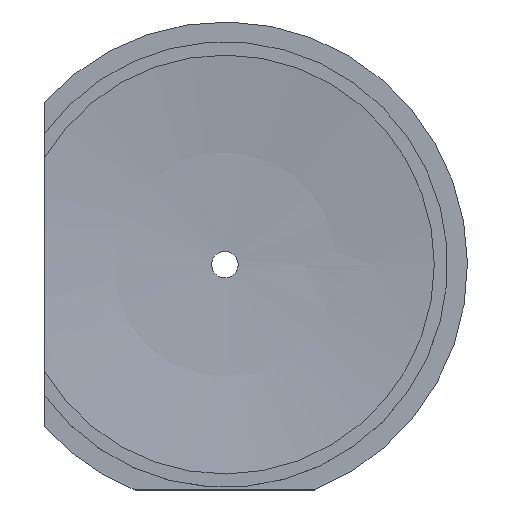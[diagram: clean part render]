
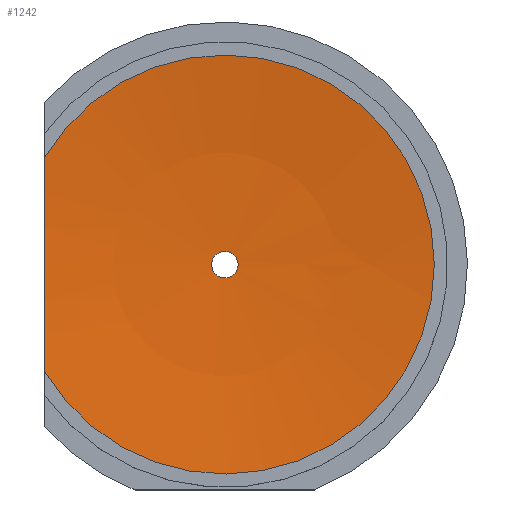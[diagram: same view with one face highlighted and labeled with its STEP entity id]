
A CAD part, top view. The second image highlights one B-rep face of the part: STEP entity #1242.
In plain terms, the highlighted spherical face has radius 125.3 mm.
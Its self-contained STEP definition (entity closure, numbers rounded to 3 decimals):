
#105 = PLANE('',#106);
#106 = AXIS2_PLACEMENT_3D('',#107,#108,#109);
#107 = CARTESIAN_POINT('',(-13.6,-93.,-1.5));
#108 = DIRECTION('',(1.,0.,0.));
#109 = DIRECTION('',(0.,0.,1.));
#632 = VERTEX_POINT('',#633);
#633 = CARTESIAN_POINT('',(-13.6,-34.96,12.4));
#647 = PLANE('',#648);
#648 = AXIS2_PLACEMENT_3D('',#649,#650,#651);
#649 = CARTESIAN_POINT('',(0.,-43.,12.4));
#650 = DIRECTION('',(0.,0.,1.));
#651 = DIRECTION('',(1.,0.,-0.));
#659 = EDGE_CURVE('',#660,#632,#662,.T.);
#660 = VERTEX_POINT('',#661);
#661 = CARTESIAN_POINT('',(-13.6,-51.04,12.4));
#662 = SURFACE_CURVE('',#663,(#668,#675),.PCURVE_S1.);
#663 = CIRCLE('',#664,124.56);
#664 = AXIS2_PLACEMENT_3D('',#665,#666,#667);
#665 = CARTESIAN_POINT('',(-13.6,-43.,136.7));
#666 = DIRECTION('',(1.,0.,0.));
#667 = DIRECTION('',(-0.,0.,1.));
#668 = PCURVE('',#105,#669);
#669 = DEFINITIONAL_REPRESENTATION('',(#670),#674);
#670 = CIRCLE('',#671,124.56);
#671 = AXIS2_PLACEMENT_2D('',#672,#673);
#672 = CARTESIAN_POINT('',(138.2,-50.));
#673 = DIRECTION('',(1.,0.));
#674 = ( GEOMETRIC_REPRESENTATION_CONTEXT(2) 
PARAMETRIC_REPRESENTATION_CONTEXT() REPRESENTATION_CONTEXT('2D SPACE',''
  ) );
#675 = PCURVE('',#676,#681);
#676 = SPHERICAL_SURFACE('',#677,125.3);
#677 = AXIS2_PLACEMENT_3D('',#678,#679,#680);
#678 = CARTESIAN_POINT('',(0.,-43.,136.7));
#679 = DIRECTION('',(0.,0.,1.));
#680 = DIRECTION('',(1.,0.,0.));
#681 = DEFINITIONAL_REPRESENTATION('',(#682),#713);
#682 = B_SPLINE_CURVE_WITH_KNOTS('',8,(#683,#684,#685,#686,#687,#688,
    #689,#690,#691,#692,#693,#694,#695,#696,#697,#698,#699,#700,#701,
    #702,#703,#704,#705,#706,#707,#708,#709,#710,#711,#712),
  .UNSPECIFIED.,.F.,.F.,(9,7,7,7,9),(3.077,3.109,
    3.134,3.17,3.206),.UNSPECIFIED.);
#683 = CARTESIAN_POINT('',(3.675,-1.444));
#684 = CARTESIAN_POINT('',(3.648,-1.446));
#685 = CARTESIAN_POINT('',(3.62,-1.448));
#686 = CARTESIAN_POINT('',(3.59,-1.45));
#687 = CARTESIAN_POINT('',(3.56,-1.452));
#688 = CARTESIAN_POINT('',(3.529,-1.453));
#689 = CARTESIAN_POINT('',(3.496,-1.455));
#690 = CARTESIAN_POINT('',(3.463,-1.456));
#691 = CARTESIAN_POINT('',(3.404,-1.458));
#692 = CARTESIAN_POINT('',(3.378,-1.459));
#693 = CARTESIAN_POINT('',(3.351,-1.46));
#694 = CARTESIAN_POINT('',(3.325,-1.46));
#695 = CARTESIAN_POINT('',(3.298,-1.461));
#696 = CARTESIAN_POINT('',(3.27,-1.461));
#697 = CARTESIAN_POINT('',(3.243,-1.462));
#698 = CARTESIAN_POINT('',(3.174,-1.462));
#699 = CARTESIAN_POINT('',(3.132,-1.462));
#700 = CARTESIAN_POINT('',(3.091,-1.462));
#701 = CARTESIAN_POINT('',(3.049,-1.462));
#702 = CARTESIAN_POINT('',(3.008,-1.461));
#703 = CARTESIAN_POINT('',(2.967,-1.461));
#704 = CARTESIAN_POINT('',(2.927,-1.46));
#705 = CARTESIAN_POINT('',(2.849,-1.457));
#706 = CARTESIAN_POINT('',(2.811,-1.456));
#707 = CARTESIAN_POINT('',(2.774,-1.454));
#708 = CARTESIAN_POINT('',(2.738,-1.453));
#709 = CARTESIAN_POINT('',(2.704,-1.451));
#710 = CARTESIAN_POINT('',(2.67,-1.449));
#711 = CARTESIAN_POINT('',(2.638,-1.447));
#712 = CARTESIAN_POINT('',(2.608,-1.444));
#713 = ( GEOMETRIC_REPRESENTATION_CONTEXT(2) 
PARAMETRIC_REPRESENTATION_CONTEXT() REPRESENTATION_CONTEXT('2D SPACE',''
  ) );
#1197 = EDGE_CURVE('',#1198,#632,#1200,.T.);
#1198 = VERTEX_POINT('',#1199);
#1199 = CARTESIAN_POINT('',(15.799,-43.,12.4));
#1200 = SURFACE_CURVE('',#1201,(#1206,#1213),.PCURVE_S1.);
#1201 = CIRCLE('',#1202,15.799);
#1202 = AXIS2_PLACEMENT_3D('',#1203,#1204,#1205);
#1203 = CARTESIAN_POINT('',(0.,-43.,12.4));
#1204 = DIRECTION('',(0.,0.,1.));
#1205 = DIRECTION('',(1.,0.,-0.));
#1206 = PCURVE('',#647,#1207);
#1207 = DEFINITIONAL_REPRESENTATION('',(#1208),#1212);
#1208 = CIRCLE('',#1209,15.799);
#1209 = AXIS2_PLACEMENT_2D('',#1210,#1211);
#1210 = CARTESIAN_POINT('',(0.,0.));
#1211 = DIRECTION('',(1.,0.));
#1212 = ( GEOMETRIC_REPRESENTATION_CONTEXT(2) 
PARAMETRIC_REPRESENTATION_CONTEXT() REPRESENTATION_CONTEXT('2D SPACE',''
  ) );
#1213 = PCURVE('',#676,#1214);
#1214 = DEFINITIONAL_REPRESENTATION('',(#1215),#1219);
#1215 = LINE('',#1216,#1217);
#1216 = CARTESIAN_POINT('',(0.,-1.444));
#1217 = VECTOR('',#1218,1.);
#1218 = DIRECTION('',(1.,0.));
#1219 = ( GEOMETRIC_REPRESENTATION_CONTEXT(2) 
PARAMETRIC_REPRESENTATION_CONTEXT() REPRESENTATION_CONTEXT('2D SPACE',''
  ) );
#1221 = EDGE_CURVE('',#660,#1198,#1222,.T.);
#1222 = SURFACE_CURVE('',#1223,(#1228,#1235),.PCURVE_S1.);
#1223 = CIRCLE('',#1224,15.799);
#1224 = AXIS2_PLACEMENT_3D('',#1225,#1226,#1227);
#1225 = CARTESIAN_POINT('',(0.,-43.,12.4));
#1226 = DIRECTION('',(0.,0.,1.));
#1227 = DIRECTION('',(1.,0.,-0.));
#1228 = PCURVE('',#647,#1229);
#1229 = DEFINITIONAL_REPRESENTATION('',(#1230),#1234);
#1230 = CIRCLE('',#1231,15.799);
#1231 = AXIS2_PLACEMENT_2D('',#1232,#1233);
#1232 = CARTESIAN_POINT('',(0.,0.));
#1233 = DIRECTION('',(1.,0.));
#1234 = ( GEOMETRIC_REPRESENTATION_CONTEXT(2) 
PARAMETRIC_REPRESENTATION_CONTEXT() REPRESENTATION_CONTEXT('2D SPACE',''
  ) );
#1235 = PCURVE('',#676,#1236);
#1236 = DEFINITIONAL_REPRESENTATION('',(#1237),#1241);
#1237 = LINE('',#1238,#1239);
#1238 = CARTESIAN_POINT('',(0.,-1.444));
#1239 = VECTOR('',#1240,1.);
#1240 = DIRECTION('',(1.,0.));
#1241 = ( GEOMETRIC_REPRESENTATION_CONTEXT(2) 
PARAMETRIC_REPRESENTATION_CONTEXT() REPRESENTATION_CONTEXT('2D SPACE',''
  ) );
#1242 = ADVANCED_FACE('',(#1243),#676,.F.);
#1243 = FACE_BOUND('',#1244,.F.);
#1244 = EDGE_LOOP('',(#1245,#1269,#1270,#1271,#1272,#1273));
#1245 = ORIENTED_EDGE('',*,*,#1246,.T.);
#1246 = EDGE_CURVE('',#1247,#1198,#1249,.T.);
#1247 = VERTEX_POINT('',#1248);
#1248 = CARTESIAN_POINT('',(1.,-43.,11.404));
#1249 = SEAM_CURVE('',#1250,(#1255,#1262),.PCURVE_S1.);
#1250 = CIRCLE('',#1251,125.3);
#1251 = AXIS2_PLACEMENT_3D('',#1252,#1253,#1254);
#1252 = CARTESIAN_POINT('',(0.,-43.,136.7));
#1253 = DIRECTION('',(0.,-1.,0.));
#1254 = DIRECTION('',(1.,0.,0.));
#1255 = PCURVE('',#676,#1256);
#1256 = DEFINITIONAL_REPRESENTATION('',(#1257),#1261);
#1257 = LINE('',#1258,#1259);
#1258 = CARTESIAN_POINT('',(6.283,-6.283));
#1259 = VECTOR('',#1260,1.);
#1260 = DIRECTION('',(0.,1.));
#1261 = ( GEOMETRIC_REPRESENTATION_CONTEXT(2) 
PARAMETRIC_REPRESENTATION_CONTEXT() REPRESENTATION_CONTEXT('2D SPACE',''
  ) );
#1262 = PCURVE('',#676,#1263);
#1263 = DEFINITIONAL_REPRESENTATION('',(#1264),#1268);
#1264 = LINE('',#1265,#1266);
#1265 = CARTESIAN_POINT('',(0.,-6.283));
#1266 = VECTOR('',#1267,1.);
#1267 = DIRECTION('',(0.,1.));
#1268 = ( GEOMETRIC_REPRESENTATION_CONTEXT(2) 
PARAMETRIC_REPRESENTATION_CONTEXT() REPRESENTATION_CONTEXT('2D SPACE',''
  ) );
#1269 = ORIENTED_EDGE('',*,*,#1221,.F.);
#1270 = ORIENTED_EDGE('',*,*,#659,.T.);
#1271 = ORIENTED_EDGE('',*,*,#1197,.F.);
#1272 = ORIENTED_EDGE('',*,*,#1246,.F.);
#1273 = ORIENTED_EDGE('',*,*,#1274,.F.);
#1274 = EDGE_CURVE('',#1247,#1247,#1275,.T.);
#1275 = SURFACE_CURVE('',#1276,(#1281,#1288),.PCURVE_S1.);
#1276 = CIRCLE('',#1277,1.);
#1277 = AXIS2_PLACEMENT_3D('',#1278,#1279,#1280);
#1278 = CARTESIAN_POINT('',(0.,-43.,11.404));
#1279 = DIRECTION('',(0.,-0.,-1.));
#1280 = DIRECTION('',(0.,1.,-0.));
#1281 = PCURVE('',#676,#1282);
#1282 = DEFINITIONAL_REPRESENTATION('',(#1283),#1287);
#1283 = LINE('',#1284,#1285);
#1284 = CARTESIAN_POINT('',(7.854,-1.563));
#1285 = VECTOR('',#1286,1.);
#1286 = DIRECTION('',(-1.,0.));
#1287 = ( GEOMETRIC_REPRESENTATION_CONTEXT(2) 
PARAMETRIC_REPRESENTATION_CONTEXT() REPRESENTATION_CONTEXT('2D SPACE',''
  ) );
#1288 = PCURVE('',#1289,#1294);
#1289 = CYLINDRICAL_SURFACE('',#1290,1.);
#1290 = AXIS2_PLACEMENT_3D('',#1291,#1292,#1293);
#1291 = CARTESIAN_POINT('',(0.,-43.,8.));
#1292 = DIRECTION('',(-0.,-0.,-1.));
#1293 = DIRECTION('',(1.,0.,0.));
#1294 = DEFINITIONAL_REPRESENTATION('',(#1295),#1299);
#1295 = LINE('',#1296,#1297);
#1296 = CARTESIAN_POINT('',(-7.854,-3.404));
#1297 = VECTOR('',#1298,1.);
#1298 = DIRECTION('',(1.,-0.));
#1299 = ( GEOMETRIC_REPRESENTATION_CONTEXT(2) 
PARAMETRIC_REPRESENTATION_CONTEXT() REPRESENTATION_CONTEXT('2D SPACE',''
  ) );
